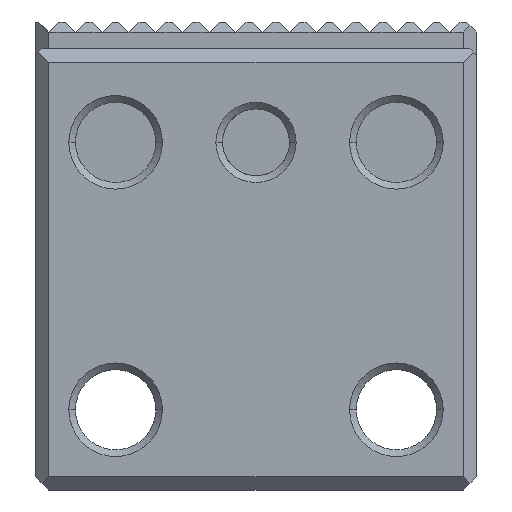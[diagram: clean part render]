
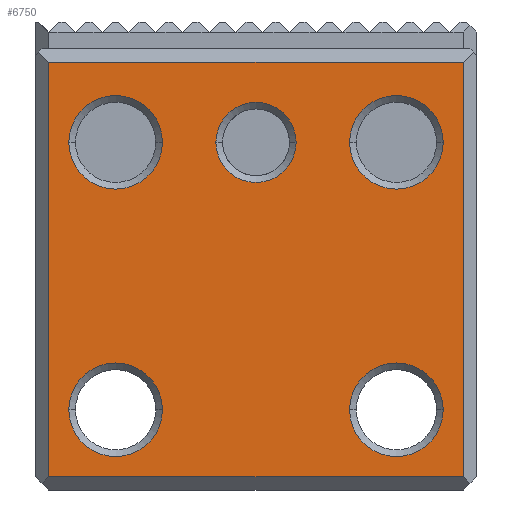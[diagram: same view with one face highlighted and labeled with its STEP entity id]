
A CAD part, front view. The second image highlights one B-rep face of the part: STEP entity #6750.
In plain terms, the highlighted planar face has unit normal (0, -1, 0).
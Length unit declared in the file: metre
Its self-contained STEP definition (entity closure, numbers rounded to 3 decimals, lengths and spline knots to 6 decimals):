
#1=CARTESIAN_POINT('',(-0.0105,0.,-0.0105));
#2=DIRECTION('',(0.,1.,0.));
#3=DIRECTION('',(-1.,0.,0.));
#4=AXIS2_PLACEMENT_3D('',#1,#2,#3);
#6=CARTESIAN_POINT('',(-0.0105,0.,-0.0105));
#7=DIRECTION('',(0.,1.,0.));
#8=DIRECTION('',(0.,0.,-1.));
#9=AXIS2_PLACEMENT_3D('',#6,#7,#8);
#11=CARTESIAN_POINT('',(-0.0105,0.,-0.0105));
#12=DIRECTION('',(0.,1.,0.));
#13=DIRECTION('',(1.,0.,0.));
#14=AXIS2_PLACEMENT_3D('',#11,#12,#13);
#16=CARTESIAN_POINT('',(-0.0105,0.,-0.0105));
#17=DIRECTION('',(0.,1.,0.));
#18=DIRECTION('',(0.,0.,1.));
#19=AXIS2_PLACEMENT_3D('',#16,#17,#18);
#21=CARTESIAN_POINT('',(-0.0105,0.,0.0095));
#22=DIRECTION('',(0.,1.,0.));
#23=DIRECTION('',(1.,0.,0.));
#24=AXIS2_PLACEMENT_3D('',#21,#22,#23);
#26=CARTESIAN_POINT('',(-0.0105,0.,0.0095));
#27=DIRECTION('',(0.,1.,0.));
#28=DIRECTION('',(0.,0.,1.));
#29=AXIS2_PLACEMENT_3D('',#26,#27,#28);
#31=CARTESIAN_POINT('',(-0.0105,0.,0.0095));
#32=DIRECTION('',(0.,1.,0.));
#33=DIRECTION('',(-1.,0.,0.));
#34=AXIS2_PLACEMENT_3D('',#31,#32,#33);
#36=CARTESIAN_POINT('',(-0.0105,0.,0.0095));
#37=DIRECTION('',(0.,1.,0.));
#38=DIRECTION('',(0.,0.,-1.));
#39=AXIS2_PLACEMENT_3D('',#36,#37,#38);
#41=CARTESIAN_POINT('',(0.0105,0.,-0.0105));
#42=DIRECTION('',(0.,1.,0.));
#43=DIRECTION('',(-1.,0.,0.));
#44=AXIS2_PLACEMENT_3D('',#41,#42,#43);
#46=CARTESIAN_POINT('',(0.0105,0.,-0.0105));
#47=DIRECTION('',(0.,1.,0.));
#48=DIRECTION('',(0.,0.,-1.));
#49=AXIS2_PLACEMENT_3D('',#46,#47,#48);
#51=CARTESIAN_POINT('',(0.0105,0.,-0.0105));
#52=DIRECTION('',(0.,1.,0.));
#53=DIRECTION('',(1.,0.,0.));
#54=AXIS2_PLACEMENT_3D('',#51,#52,#53);
#56=CARTESIAN_POINT('',(0.0105,0.,-0.0105));
#57=DIRECTION('',(0.,1.,0.));
#58=DIRECTION('',(0.,0.,1.));
#59=AXIS2_PLACEMENT_3D('',#56,#57,#58);
#61=CARTESIAN_POINT('',(0.0105,0.,0.0095));
#62=DIRECTION('',(0.,1.,0.));
#63=DIRECTION('',(-1.,0.,0.));
#64=AXIS2_PLACEMENT_3D('',#61,#62,#63);
#66=CARTESIAN_POINT('',(0.0105,0.,0.0095));
#67=DIRECTION('',(0.,1.,0.));
#68=DIRECTION('',(0.,0.,-1.));
#69=AXIS2_PLACEMENT_3D('',#66,#67,#68);
#71=CARTESIAN_POINT('',(0.0105,0.,0.0095));
#72=DIRECTION('',(0.,1.,0.));
#73=DIRECTION('',(1.,0.,0.));
#74=AXIS2_PLACEMENT_3D('',#71,#72,#73);
#76=CARTESIAN_POINT('',(0.0105,0.,0.0095));
#77=DIRECTION('',(0.,1.,0.));
#78=DIRECTION('',(0.,0.,1.));
#79=AXIS2_PLACEMENT_3D('',#76,#77,#78);
#81=CARTESIAN_POINT('',(0.,0.,0.0095));
#82=DIRECTION('',(0.,1.,0.));
#83=DIRECTION('',(-1.,0.,0.));
#84=AXIS2_PLACEMENT_3D('',#81,#82,#83);
#86=CARTESIAN_POINT('',(0.,0.,0.0095));
#87=DIRECTION('',(0.,1.,0.));
#88=DIRECTION('',(0.,0.,-1.));
#89=AXIS2_PLACEMENT_3D('',#86,#87,#88);
#91=CARTESIAN_POINT('',(0.,0.,0.0095));
#92=DIRECTION('',(0.,1.,0.));
#93=DIRECTION('',(1.,0.,0.));
#94=AXIS2_PLACEMENT_3D('',#91,#92,#93);
#96=CARTESIAN_POINT('',(0.,0.,0.0095));
#97=DIRECTION('',(0.,1.,0.));
#98=DIRECTION('',(0.,0.,1.));
#99=AXIS2_PLACEMENT_3D('',#96,#97,#98);
#1048=DIRECTION('',(0.,0.,-1.));
#1049=VECTOR('',#1048,0.031);
#1050=CARTESIAN_POINT('',(0.0155,0.,0.0155));
#1051=LINE('',#1050,#1049);
#1060=DIRECTION('',(1.,0.,0.));
#1061=VECTOR('',#1060,0.031);
#1062=CARTESIAN_POINT('',(-0.0155,0.,0.0155));
#1063=LINE('',#1062,#1061);
#1072=DIRECTION('',(0.,0.,1.));
#1073=VECTOR('',#1072,0.031);
#1074=CARTESIAN_POINT('',(-0.0155,0.,-0.0155));
#1075=LINE('',#1074,#1073);
#5147=DIRECTION('',(-1.,0.,0.));
#5148=VECTOR('',#5147,0.031);
#5149=CARTESIAN_POINT('',(0.0155,0.,-0.0155));
#5150=LINE('',#5149,#5148);
#5265=CARTESIAN_POINT('',(0.0155,0.,0.0155));
#5266=CARTESIAN_POINT('',(0.0155,0.,-0.0155));
#5267=VERTEX_POINT('',#5265);
#5268=VERTEX_POINT('',#5266);
#5269=CARTESIAN_POINT('',(-0.0155,0.,-0.0155));
#5270=VERTEX_POINT('',#5269);
#5271=CARTESIAN_POINT('',(-0.0155,0.,0.0155));
#5272=VERTEX_POINT('',#5271);
#5273=CARTESIAN_POINT('',(0.003,0.,0.0095));
#5274=CARTESIAN_POINT('',(0.,0.,0.0065));
#5275=VERTEX_POINT('',#5273);
#5276=VERTEX_POINT('',#5274);
#5277=CARTESIAN_POINT('',(-0.003,0.,0.0095));
#5278=VERTEX_POINT('',#5277);
#5279=CARTESIAN_POINT('',(0.,0.,0.0125));
#5280=VERTEX_POINT('',#5279);
#5281=CARTESIAN_POINT('',(0.014,0.,0.0095));
#5282=CARTESIAN_POINT('',(0.0105,0.,0.006));
#5283=VERTEX_POINT('',#5281);
#5284=VERTEX_POINT('',#5282);
#5285=CARTESIAN_POINT('',(0.007,0.,0.0095));
#5286=VERTEX_POINT('',#5285);
#5287=CARTESIAN_POINT('',(0.0105,0.,0.013));
#5288=VERTEX_POINT('',#5287);
#5289=CARTESIAN_POINT('',(0.014,0.,-0.0105));
#5290=CARTESIAN_POINT('',(0.0105,0.,-0.014));
#5291=VERTEX_POINT('',#5289);
#5292=VERTEX_POINT('',#5290);
#5293=CARTESIAN_POINT('',(0.007,0.,-0.0105));
#5294=VERTEX_POINT('',#5293);
#5295=CARTESIAN_POINT('',(0.0105,0.,-0.007));
#5296=VERTEX_POINT('',#5295);
#5297=CARTESIAN_POINT('',(-0.014,0.,0.0095));
#5298=CARTESIAN_POINT('',(-0.0105,0.,0.013));
#5299=VERTEX_POINT('',#5297);
#5300=VERTEX_POINT('',#5298);
#5301=CARTESIAN_POINT('',(-0.007,0.,0.0095));
#5302=VERTEX_POINT('',#5301);
#5303=CARTESIAN_POINT('',(-0.0105,0.,0.006));
#5304=VERTEX_POINT('',#5303);
#5305=CARTESIAN_POINT('',(-0.007,0.,-0.0105));
#5306=CARTESIAN_POINT('',(-0.0105,0.,-0.014));
#5307=VERTEX_POINT('',#5305);
#5308=VERTEX_POINT('',#5306);
#5309=CARTESIAN_POINT('',(-0.014,0.,-0.0105));
#5310=VERTEX_POINT('',#5309);
#5311=CARTESIAN_POINT('',(-0.0105,0.,-0.007));
#5312=VERTEX_POINT('',#5311);
#6685=CARTESIAN_POINT('',(0.,0.,0.));
#6686=DIRECTION('',(0.,1.,0.));
#6687=DIRECTION('',(1.,0.,0.));
#6688=AXIS2_PLACEMENT_3D('',#6685,#6686,#6687);
#6689=PLANE('',#6688);
#6691=ORIENTED_EDGE('',*,*,#6690,.T.);
#6693=ORIENTED_EDGE('',*,*,#6692,.T.);
#6695=ORIENTED_EDGE('',*,*,#6694,.T.);
#6697=ORIENTED_EDGE('',*,*,#6696,.T.);
#6698=EDGE_LOOP('',(#6691,#6693,#6695,#6697));
#6699=FACE_OUTER_BOUND('',#6698,.F.);
#6701=ORIENTED_EDGE('',*,*,#6700,.F.);
#6703=ORIENTED_EDGE('',*,*,#6702,.F.);
#6705=ORIENTED_EDGE('',*,*,#6704,.F.);
#6707=ORIENTED_EDGE('',*,*,#6706,.F.);
#6708=EDGE_LOOP('',(#6701,#6703,#6705,#6707));
#6709=FACE_BOUND('',#6708,.F.);
#6711=ORIENTED_EDGE('',*,*,#6710,.F.);
#6713=ORIENTED_EDGE('',*,*,#6712,.F.);
#6715=ORIENTED_EDGE('',*,*,#6714,.F.);
#6717=ORIENTED_EDGE('',*,*,#6716,.F.);
#6718=EDGE_LOOP('',(#6711,#6713,#6715,#6717));
#6719=FACE_BOUND('',#6718,.F.);
#6721=ORIENTED_EDGE('',*,*,#6720,.F.);
#6723=ORIENTED_EDGE('',*,*,#6722,.F.);
#6725=ORIENTED_EDGE('',*,*,#6724,.F.);
#6727=ORIENTED_EDGE('',*,*,#6726,.F.);
#6728=EDGE_LOOP('',(#6721,#6723,#6725,#6727));
#6729=FACE_BOUND('',#6728,.F.);
#6731=ORIENTED_EDGE('',*,*,#6730,.F.);
#6733=ORIENTED_EDGE('',*,*,#6732,.F.);
#6735=ORIENTED_EDGE('',*,*,#6734,.F.);
#6737=ORIENTED_EDGE('',*,*,#6736,.F.);
#6738=EDGE_LOOP('',(#6731,#6733,#6735,#6737));
#6739=FACE_BOUND('',#6738,.F.);
#6741=ORIENTED_EDGE('',*,*,#6740,.F.);
#6743=ORIENTED_EDGE('',*,*,#6742,.F.);
#6745=ORIENTED_EDGE('',*,*,#6744,.F.);
#6747=ORIENTED_EDGE('',*,*,#6746,.F.);
#6748=EDGE_LOOP('',(#6741,#6743,#6745,#6747));
#6749=FACE_BOUND('',#6748,.F.);
#6750=ADVANCED_FACE('',(#6699,#6709,#6719,#6729,#6739,#6749),#6689,.F.);
#5=CIRCLE('',#4,0.0035);
#10=CIRCLE('',#9,0.0035);
#15=CIRCLE('',#14,0.0035);
#20=CIRCLE('',#19,0.0035);
#25=CIRCLE('',#24,0.0035);
#30=CIRCLE('',#29,0.0035);
#35=CIRCLE('',#34,0.0035);
#40=CIRCLE('',#39,0.0035);
#45=CIRCLE('',#44,0.0035);
#50=CIRCLE('',#49,0.0035);
#55=CIRCLE('',#54,0.0035);
#60=CIRCLE('',#59,0.0035);
#65=CIRCLE('',#64,0.0035);
#70=CIRCLE('',#69,0.0035);
#75=CIRCLE('',#74,0.0035);
#80=CIRCLE('',#79,0.0035);
#85=CIRCLE('',#84,0.003);
#90=CIRCLE('',#89,0.003);
#95=CIRCLE('',#94,0.003);
#100=CIRCLE('',#99,0.003);
#6690=EDGE_CURVE('',#5272,#5267,#1063,.T.);
#6692=EDGE_CURVE('',#5267,#5268,#1051,.T.);
#6694=EDGE_CURVE('',#5268,#5270,#5150,.T.);
#6696=EDGE_CURVE('',#5270,#5272,#1075,.T.);
#6700=EDGE_CURVE('',#5302,#5304,#25,.T.);
#6702=EDGE_CURVE('',#5300,#5302,#30,.T.);
#6704=EDGE_CURVE('',#5299,#5300,#35,.T.);
#6706=EDGE_CURVE('',#5304,#5299,#40,.T.);
#6710=EDGE_CURVE('',#5294,#5296,#45,.T.);
#6712=EDGE_CURVE('',#5292,#5294,#50,.T.);
#6714=EDGE_CURVE('',#5291,#5292,#55,.T.);
#6716=EDGE_CURVE('',#5296,#5291,#60,.T.);
#6720=EDGE_CURVE('',#5286,#5288,#65,.T.);
#6722=EDGE_CURVE('',#5284,#5286,#70,.T.);
#6724=EDGE_CURVE('',#5283,#5284,#75,.T.);
#6726=EDGE_CURVE('',#5288,#5283,#80,.T.);
#6730=EDGE_CURVE('',#5278,#5280,#85,.T.);
#6732=EDGE_CURVE('',#5276,#5278,#90,.T.);
#6734=EDGE_CURVE('',#5275,#5276,#95,.T.);
#6736=EDGE_CURVE('',#5280,#5275,#100,.T.);
#6740=EDGE_CURVE('',#5310,#5312,#5,.T.);
#6742=EDGE_CURVE('',#5308,#5310,#10,.T.);
#6744=EDGE_CURVE('',#5307,#5308,#15,.T.);
#6746=EDGE_CURVE('',#5312,#5307,#20,.T.);
